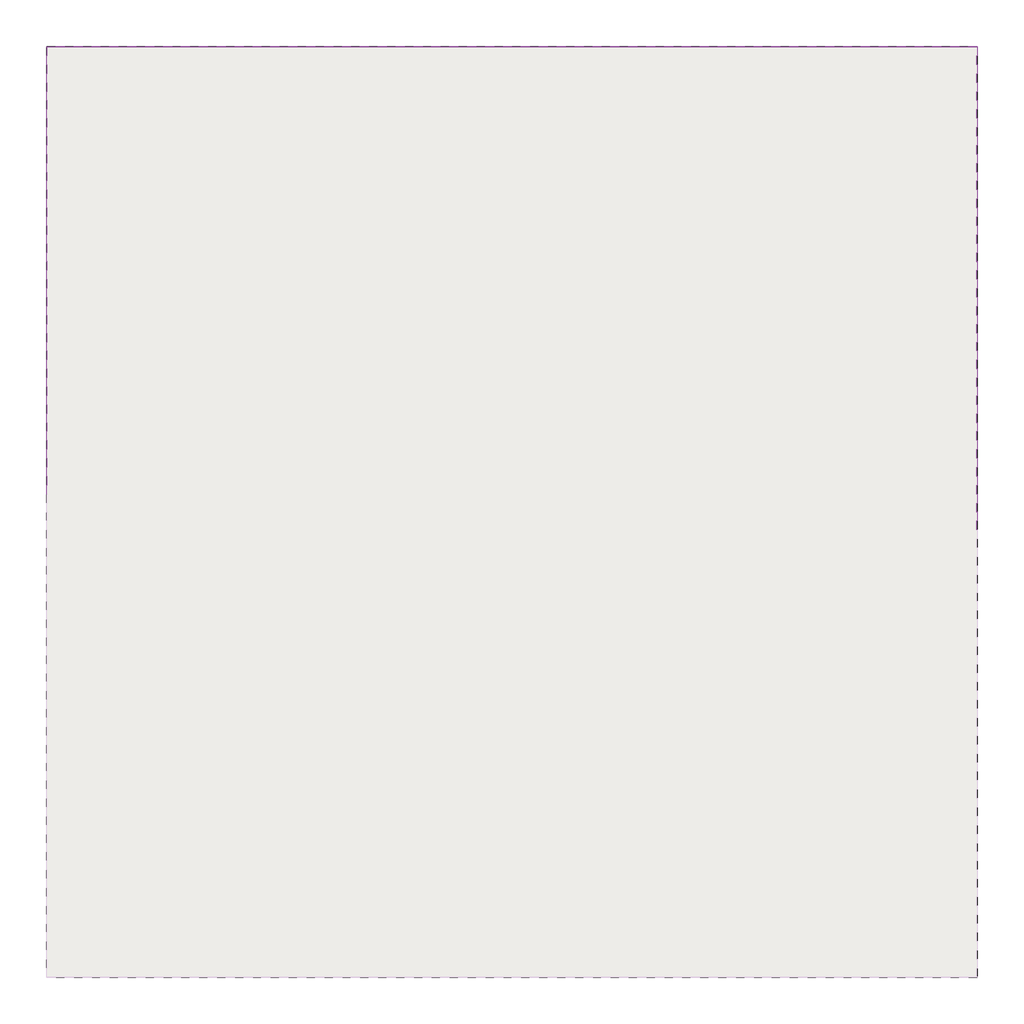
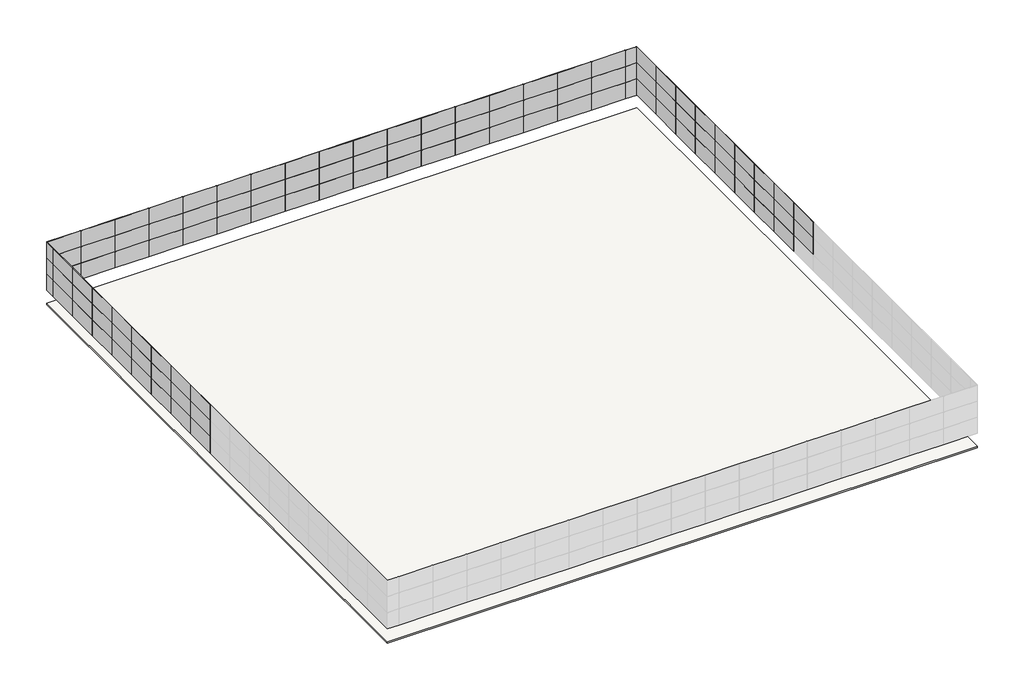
# One storey, part 2 of 2: 107 plates, 2 slabs.
"""IFC4 building model written with IfcOpenShell, lengths in millimetres."""

from ifc_helpers import new_model, si_unit, frame, origin, place, context, project, spatial, polyline, outline, extrude, transform, mapped, element, save
from components import plate_b491c4e8, plate_da1865bf

model = new_model("IFC4")

# Units and contexts
model_context = context("Model", 3, world=origin())
ifc_project = project(units=[si_unit("LENGTHUNIT", "METRE", prefix="MILLI")], contexts=[model_context])

# Site, building, storey
site = spatial("IfcSite", under=ifc_project)
building = spatial("IfcBuilding", under=site)
storey = spatial("IfcBuildingStorey", under=building, Name="标高 2", Elevation=4800.0)

# Plates
placement = place(None, origin())
plate_shape = plate_b491c4e8(model_context)
element("IfcPlate", 1, ObjectType="系统嵌板 : 玻璃", at=placement, inside=storey, context=model_context, shape_type="MappedRepresentation", body=[
    mapped(plate_shape, transform((30694.7947586, 23251.3686437, 6000.0), x_axis=(0.0, -1.0, 0.0), y_axis=(1.0, 0.0, 0.0), z_axis=(0.0, 0.0, 1.0))),
])
element("IfcPlate", 2, ObjectType="系统嵌板 : 玻璃", at=placement, inside=storey, context=model_context, shape_type="MappedRepresentation", body=[
    mapped(plate_shape, transform((30694.7947586, 20251.3686437, 6000.0), x_axis=(0.0, -1.0, 0.0), y_axis=(1.0, 0.0, 0.0), z_axis=(0.0, 0.0, 1.0))),
])
element("IfcPlate", 3, ObjectType="系统嵌板 : 玻璃", at=placement, inside=storey, context=model_context, shape_type="MappedRepresentation", body=[
    mapped(plate_shape, transform((30694.7947586, 17251.3686437, 6000.0), x_axis=(0.0, -1.0, 0.0), y_axis=(1.0, 0.0, 0.0), z_axis=(0.0, 0.0, 1.0))),
])
element("IfcPlate", 4, ObjectType="系统嵌板 : 玻璃", at=placement, inside=storey, context=model_context, shape_type="MappedRepresentation", body=[
    mapped(plate_shape, transform((30694.7947586, 14251.3686437, 6000.0), x_axis=(0.0, -1.0, 0.0), y_axis=(1.0, 0.0, 0.0), z_axis=(0.0, 0.0, 1.0))),
])
element("IfcPlate", 5, ObjectType="系统嵌板 : 玻璃", at=placement, inside=storey, context=model_context, shape_type="MappedRepresentation", body=[
    mapped(plate_shape, transform((30694.7947586, 11251.3686437, 6000.0), x_axis=(0.0, -1.0, 0.0), y_axis=(1.0, 0.0, 0.0), z_axis=(0.0, 0.0, 1.0))),
])
element("IfcPlate", 6, ObjectType="系统嵌板 : 玻璃", at=placement, inside=storey, context=model_context, shape_type="MappedRepresentation", body=[
    mapped(plate_shape, transform((30694.7947586, 8251.3686437, 6000.0), x_axis=(0.0, -1.0, 0.0), y_axis=(1.0, 0.0, 0.0), z_axis=(0.0, 0.0, 1.0))),
])
element("IfcPlate", 7, ObjectType="系统嵌板 : 玻璃", at=placement, inside=storey, context=model_context, shape_type="MappedRepresentation", body=[
    mapped(plate_shape, transform((30694.7947586, 5251.3686437, 6000.0), x_axis=(0.0, -1.0, 0.0), y_axis=(1.0, 0.0, 0.0), z_axis=(0.0, 0.0, 1.0))),
])
element("IfcPlate", 8, ObjectType="系统嵌板 : 玻璃", at=placement, inside=storey, context=model_context, shape_type="MappedRepresentation", body=[
    mapped(plate_shape, transform((30694.7947586, 2251.3686437, 6000.0), x_axis=(0.0, -1.0, 0.0), y_axis=(1.0, 0.0, 0.0), z_axis=(0.0, 0.0, 1.0))),
])
element("IfcPlate", 9, ObjectType="系统嵌板 : 玻璃", at=placement, inside=storey, context=model_context, shape_type="MappedRepresentation", body=[
    mapped(plate_shape, transform((30694.7947586, 23251.3686437, 7500.0), x_axis=(0.0, -1.0, 0.0), y_axis=(1.0, 0.0, 0.0), z_axis=(0.0, 0.0, 1.0))),
])
element("IfcPlate", 10, ObjectType="系统嵌板 : 玻璃", at=placement, inside=storey, context=model_context, shape_type="MappedRepresentation", body=[
    mapped(plate_shape, transform((30694.7947586, 20251.3686437, 7500.0), x_axis=(0.0, -1.0, 0.0), y_axis=(1.0, 0.0, 0.0), z_axis=(0.0, 0.0, 1.0))),
])
element("IfcPlate", 11, ObjectType="系统嵌板 : 玻璃", at=placement, inside=storey, context=model_context, shape_type="MappedRepresentation", body=[
    mapped(plate_shape, transform((30694.7947586, 17251.3686437, 7500.0), x_axis=(0.0, -1.0, 0.0), y_axis=(1.0, 0.0, 0.0), z_axis=(0.0, 0.0, 1.0))),
])
element("IfcPlate", 12, ObjectType="系统嵌板 : 玻璃", at=placement, inside=storey, context=model_context, shape_type="MappedRepresentation", body=[
    mapped(plate_shape, transform((30694.7947586, 14251.3686437, 7500.0), x_axis=(0.0, -1.0, 0.0), y_axis=(1.0, 0.0, 0.0), z_axis=(0.0, 0.0, 1.0))),
])
element("IfcPlate", 13, ObjectType="系统嵌板 : 玻璃", at=placement, inside=storey, context=model_context, shape_type="MappedRepresentation", body=[
    mapped(plate_shape, transform((30694.7947586, 11251.3686437, 7500.0), x_axis=(0.0, -1.0, 0.0), y_axis=(1.0, 0.0, 0.0), z_axis=(0.0, 0.0, 1.0))),
])
element("IfcPlate", 14, ObjectType="系统嵌板 : 玻璃", at=placement, inside=storey, context=model_context, shape_type="MappedRepresentation", body=[
    mapped(plate_shape, transform((30694.7947586, 8251.3686437, 7500.0), x_axis=(0.0, -1.0, 0.0), y_axis=(1.0, 0.0, 0.0), z_axis=(0.0, 0.0, 1.0))),
])
element("IfcPlate", 15, ObjectType="系统嵌板 : 玻璃", at=placement, inside=storey, context=model_context, shape_type="MappedRepresentation", body=[
    mapped(plate_shape, transform((30694.7947586, 5251.3686437, 7500.0), x_axis=(0.0, -1.0, 0.0), y_axis=(1.0, 0.0, 0.0), z_axis=(0.0, 0.0, 1.0))),
])
element("IfcPlate", 16, ObjectType="系统嵌板 : 玻璃", at=placement, inside=storey, context=model_context, shape_type="MappedRepresentation", body=[
    mapped(plate_shape, transform((30694.7947586, 2251.3686437, 7500.0), x_axis=(0.0, -1.0, 0.0), y_axis=(1.0, 0.0, 0.0), z_axis=(0.0, 0.0, 1.0))),
])
element("IfcPlate", 17, ObjectType="系统嵌板 : 玻璃", at=placement, inside=storey, context=model_context, shape_type="MappedRepresentation", body=[
    mapped(plate_shape, transform((30694.7947586, -748.6313563, 7500.0), x_axis=(0.0, -1.0, 0.0), y_axis=(1.0, 0.0, 0.0), z_axis=(0.0, 0.0, 1.0))),
])
element("IfcPlate", 18, ObjectType="系统嵌板 : 玻璃", at=placement, inside=storey, context=model_context, shape_type="MappedRepresentation", body=[
    mapped(plate_shape, transform((30694.7947586, 23251.3686437, 9000.0), x_axis=(0.0, -1.0, 0.0), y_axis=(1.0, 0.0, 0.0), z_axis=(0.0, 0.0, 1.0))),
])
element("IfcPlate", 19, ObjectType="系统嵌板 : 玻璃", at=placement, inside=storey, context=model_context, shape_type="MappedRepresentation", body=[
    mapped(plate_shape, transform((30694.7947586, 20251.3686437, 9000.0), x_axis=(0.0, -1.0, 0.0), y_axis=(1.0, 0.0, 0.0), z_axis=(0.0, 0.0, 1.0))),
])
element("IfcPlate", 20, ObjectType="系统嵌板 : 玻璃", at=placement, inside=storey, context=model_context, shape_type="MappedRepresentation", body=[
    mapped(plate_shape, transform((30694.7947586, 17251.3686437, 9000.0), x_axis=(0.0, -1.0, 0.0), y_axis=(1.0, 0.0, 0.0), z_axis=(0.0, 0.0, 1.0))),
])
element("IfcPlate", 21, ObjectType="系统嵌板 : 玻璃", at=placement, inside=storey, context=model_context, shape_type="MappedRepresentation", body=[
    mapped(plate_shape, transform((30694.7947586, 14251.3686437, 9000.0), x_axis=(0.0, -1.0, 0.0), y_axis=(1.0, 0.0, 0.0), z_axis=(0.0, 0.0, 1.0))),
])
element("IfcPlate", 22, ObjectType="系统嵌板 : 玻璃", at=placement, inside=storey, context=model_context, shape_type="MappedRepresentation", body=[
    mapped(plate_shape, transform((30694.7947586, 11251.3686437, 9000.0), x_axis=(0.0, -1.0, 0.0), y_axis=(1.0, 0.0, 0.0), z_axis=(0.0, 0.0, 1.0))),
])
element("IfcPlate", 23, ObjectType="系统嵌板 : 玻璃", at=placement, inside=storey, context=model_context, shape_type="MappedRepresentation", body=[
    mapped(plate_shape, transform((30694.7947586, 8251.3686437, 9000.0), x_axis=(0.0, -1.0, 0.0), y_axis=(1.0, 0.0, 0.0), z_axis=(0.0, 0.0, 1.0))),
])
element("IfcPlate", 24, ObjectType="系统嵌板 : 玻璃", at=placement, inside=storey, context=model_context, shape_type="MappedRepresentation", body=[
    mapped(plate_shape, transform((30694.7947586, 5251.3686437, 9000.0), x_axis=(0.0, -1.0, 0.0), y_axis=(1.0, 0.0, 0.0), z_axis=(0.0, 0.0, 1.0))),
])
element("IfcPlate", 25, ObjectType="系统嵌板 : 玻璃", at=placement, inside=storey, context=model_context, shape_type="MappedRepresentation", body=[
    mapped(plate_shape, transform((30694.7947586, 2251.3686437, 9000.0), x_axis=(0.0, -1.0, 0.0), y_axis=(1.0, 0.0, 0.0), z_axis=(0.0, 0.0, 1.0))),
])
element("IfcPlate", 26, ObjectType="系统嵌板 : 玻璃", at=placement, inside=storey, context=model_context, shape_type="MappedRepresentation", body=[
    mapped(plate_shape, transform((30694.7947586, -748.6313563, 9000.0), x_axis=(0.0, -1.0, 0.0), y_axis=(1.0, 0.0, 0.0), z_axis=(0.0, 0.0, 1.0))),
])
element("IfcPlate", 27, ObjectType="系统嵌板 : 玻璃", at=placement, inside=storey, context=model_context, shape_type="MappedRepresentation", body=[
    mapped(plate_shape, transform((-19805.2052414, 24751.3686437, 6000.0), x_axis=(1.0, 0.0, 0.0), y_axis=(0.0, 1.0, 0.0), z_axis=(0.0, 0.0, 1.0))),
])
element("IfcPlate", 28, ObjectType="系统嵌板 : 玻璃", at=placement, inside=storey, context=model_context, shape_type="MappedRepresentation", body=[
    mapped(plate_shape, transform((-16805.2052414, 24751.3686437, 6000.0), x_axis=(1.0, 0.0, 0.0), y_axis=(0.0, 1.0, 0.0), z_axis=(0.0, 0.0, 1.0))),
])
element("IfcPlate", 29, ObjectType="系统嵌板 : 玻璃", at=placement, inside=storey, context=model_context, shape_type="MappedRepresentation", body=[
    mapped(plate_shape, transform((-13805.2052414, 24751.3686437, 6000.0), x_axis=(1.0, 0.0, 0.0), y_axis=(0.0, 1.0, 0.0), z_axis=(0.0, 0.0, 1.0))),
])
element("IfcPlate", 30, ObjectType="系统嵌板 : 玻璃", at=placement, inside=storey, context=model_context, shape_type="MappedRepresentation", body=[
    mapped(plate_shape, transform((-10805.2052414, 24751.3686437, 6000.0), x_axis=(1.0, 0.0, 0.0), y_axis=(0.0, 1.0, 0.0), z_axis=(0.0, 0.0, 1.0))),
])
element("IfcPlate", 31, ObjectType="系统嵌板 : 玻璃", at=placement, inside=storey, context=model_context, shape_type="MappedRepresentation", body=[
    mapped(plate_shape, transform((-7805.2052414, 24751.3686437, 6000.0), x_axis=(1.0, 0.0, 0.0), y_axis=(0.0, 1.0, 0.0), z_axis=(0.0, 0.0, 1.0))),
])
element("IfcPlate", 32, ObjectType="系统嵌板 : 玻璃", at=placement, inside=storey, context=model_context, shape_type="MappedRepresentation", body=[
    mapped(plate_shape, transform((-4805.2052414, 24751.3686437, 6000.0), x_axis=(1.0, 0.0, 0.0), y_axis=(0.0, 1.0, 0.0), z_axis=(0.0, 0.0, 1.0))),
])
element("IfcPlate", 33, ObjectType="系统嵌板 : 玻璃", at=placement, inside=storey, context=model_context, shape_type="MappedRepresentation", body=[
    mapped(plate_shape, transform((-1805.2052414, 24751.3686437, 6000.0), x_axis=(1.0, 0.0, 0.0), y_axis=(0.0, 1.0, 0.0), z_axis=(0.0, 0.0, 1.0))),
])
element("IfcPlate", 34, ObjectType="系统嵌板 : 玻璃", at=placement, inside=storey, context=model_context, shape_type="MappedRepresentation", body=[
    mapped(plate_shape, transform((1194.7947586, 24751.3686437, 6000.0), x_axis=(1.0, 0.0, 0.0), y_axis=(0.0, 1.0, 0.0), z_axis=(0.0, 0.0, 1.0))),
])
element("IfcPlate", 35, ObjectType="系统嵌板 : 玻璃", at=placement, inside=storey, context=model_context, shape_type="MappedRepresentation", body=[
    mapped(plate_shape, transform((4194.7947586, 24751.3686437, 6000.0), x_axis=(1.0, 0.0, 0.0), y_axis=(0.0, 1.0, 0.0), z_axis=(0.0, 0.0, 1.0))),
])
element("IfcPlate", 36, ObjectType="系统嵌板 : 玻璃", at=placement, inside=storey, context=model_context, shape_type="MappedRepresentation", body=[
    mapped(plate_shape, transform((7194.7947586, 24751.3686437, 6000.0), x_axis=(1.0, 0.0, 0.0), y_axis=(0.0, 1.0, 0.0), z_axis=(0.0, 0.0, 1.0))),
])
element("IfcPlate", 37, ObjectType="系统嵌板 : 玻璃", at=placement, inside=storey, context=model_context, shape_type="MappedRepresentation", body=[
    mapped(plate_shape, transform((10194.7947586, 24751.3686437, 6000.0), x_axis=(1.0, 0.0, 0.0), y_axis=(0.0, 1.0, 0.0), z_axis=(0.0, 0.0, 1.0))),
])
element("IfcPlate", 38, ObjectType="系统嵌板 : 玻璃", at=placement, inside=storey, context=model_context, shape_type="MappedRepresentation", body=[
    mapped(plate_shape, transform((13194.7947586, 24751.3686437, 6000.0), x_axis=(1.0, 0.0, 0.0), y_axis=(0.0, 1.0, 0.0), z_axis=(0.0, 0.0, 1.0))),
])
element("IfcPlate", 39, ObjectType="系统嵌板 : 玻璃", at=placement, inside=storey, context=model_context, shape_type="MappedRepresentation", body=[
    mapped(plate_shape, transform((16194.7947586, 24751.3686437, 6000.0), x_axis=(1.0, 0.0, 0.0), y_axis=(0.0, 1.0, 0.0), z_axis=(0.0, 0.0, 1.0))),
])
element("IfcPlate", 40, ObjectType="系统嵌板 : 玻璃", at=placement, inside=storey, context=model_context, shape_type="MappedRepresentation", body=[
    mapped(plate_shape, transform((19194.7947586, 24751.3686437, 6000.0), x_axis=(1.0, 0.0, 0.0), y_axis=(0.0, 1.0, 0.0), z_axis=(0.0, 0.0, 1.0))),
])
element("IfcPlate", 41, ObjectType="系统嵌板 : 玻璃", at=placement, inside=storey, context=model_context, shape_type="MappedRepresentation", body=[
    mapped(plate_shape, transform((22194.7947586, 24751.3686437, 6000.0), x_axis=(1.0, 0.0, 0.0), y_axis=(0.0, 1.0, 0.0), z_axis=(0.0, 0.0, 1.0))),
])
element("IfcPlate", 42, ObjectType="系统嵌板 : 玻璃", at=placement, inside=storey, context=model_context, shape_type="MappedRepresentation", body=[
    mapped(plate_shape, transform((25194.7947586, 24751.3686437, 6000.0), x_axis=(1.0, 0.0, 0.0), y_axis=(0.0, 1.0, 0.0), z_axis=(0.0, 0.0, 1.0))),
])
element("IfcPlate", 43, ObjectType="系统嵌板 : 玻璃", at=placement, inside=storey, context=model_context, shape_type="MappedRepresentation", body=[
    mapped(plate_shape, transform((28194.7947586, 24751.3686437, 6000.0), x_axis=(1.0, 0.0, 0.0), y_axis=(0.0, 1.0, 0.0), z_axis=(0.0, 0.0, 1.0))),
])
element("IfcPlate", 44, ObjectType="系统嵌板 : 玻璃", at=placement, inside=storey, context=model_context, shape_type="MappedRepresentation", body=[
    mapped(plate_shape, transform((-19805.2052414, 24751.3686437, 7500.0), x_axis=(1.0, 0.0, 0.0), y_axis=(0.0, 1.0, 0.0), z_axis=(0.0, 0.0, 1.0))),
])
element("IfcPlate", 45, ObjectType="系统嵌板 : 玻璃", at=placement, inside=storey, context=model_context, shape_type="MappedRepresentation", body=[
    mapped(plate_shape, transform((-16805.2052414, 24751.3686437, 7500.0), x_axis=(1.0, 0.0, 0.0), y_axis=(0.0, 1.0, 0.0), z_axis=(0.0, 0.0, 1.0))),
])
element("IfcPlate", 46, ObjectType="系统嵌板 : 玻璃", at=placement, inside=storey, context=model_context, shape_type="MappedRepresentation", body=[
    mapped(plate_shape, transform((-13805.2052414, 24751.3686437, 7500.0), x_axis=(1.0, 0.0, 0.0), y_axis=(0.0, 1.0, 0.0), z_axis=(0.0, 0.0, 1.0))),
])
element("IfcPlate", 47, ObjectType="系统嵌板 : 玻璃", at=placement, inside=storey, context=model_context, shape_type="MappedRepresentation", body=[
    mapped(plate_shape, transform((-10805.2052414, 24751.3686437, 7500.0), x_axis=(1.0, 0.0, 0.0), y_axis=(0.0, 1.0, 0.0), z_axis=(0.0, 0.0, 1.0))),
])
element("IfcPlate", 48, ObjectType="系统嵌板 : 玻璃", at=placement, inside=storey, context=model_context, shape_type="MappedRepresentation", body=[
    mapped(plate_shape, transform((-7805.2052414, 24751.3686437, 7500.0), x_axis=(1.0, 0.0, 0.0), y_axis=(0.0, 1.0, 0.0), z_axis=(0.0, 0.0, 1.0))),
])
element("IfcPlate", 49, ObjectType="系统嵌板 : 玻璃", at=placement, inside=storey, context=model_context, shape_type="MappedRepresentation", body=[
    mapped(plate_shape, transform((-4805.2052414, 24751.3686437, 7500.0), x_axis=(1.0, 0.0, 0.0), y_axis=(0.0, 1.0, 0.0), z_axis=(0.0, 0.0, 1.0))),
])
element("IfcPlate", 50, ObjectType="系统嵌板 : 玻璃", at=placement, inside=storey, context=model_context, shape_type="MappedRepresentation", body=[
    mapped(plate_shape, transform((-1805.2052414, 24751.3686437, 7500.0), x_axis=(1.0, 0.0, 0.0), y_axis=(0.0, 1.0, 0.0), z_axis=(0.0, 0.0, 1.0))),
])
element("IfcPlate", 51, ObjectType="系统嵌板 : 玻璃", at=placement, inside=storey, context=model_context, shape_type="MappedRepresentation", body=[
    mapped(plate_shape, transform((1194.7947586, 24751.3686437, 7500.0), x_axis=(1.0, 0.0, 0.0), y_axis=(0.0, 1.0, 0.0), z_axis=(0.0, 0.0, 1.0))),
])
element("IfcPlate", 52, ObjectType="系统嵌板 : 玻璃", at=placement, inside=storey, context=model_context, shape_type="MappedRepresentation", body=[
    mapped(plate_shape, transform((4194.7947586, 24751.3686437, 7500.0), x_axis=(1.0, 0.0, 0.0), y_axis=(0.0, 1.0, 0.0), z_axis=(0.0, 0.0, 1.0))),
])
element("IfcPlate", 53, ObjectType="系统嵌板 : 玻璃", at=placement, inside=storey, context=model_context, shape_type="MappedRepresentation", body=[
    mapped(plate_shape, transform((7194.7947586, 24751.3686437, 7500.0), x_axis=(1.0, 0.0, 0.0), y_axis=(0.0, 1.0, 0.0), z_axis=(0.0, 0.0, 1.0))),
])
element("IfcPlate", 54, ObjectType="系统嵌板 : 玻璃", at=placement, inside=storey, context=model_context, shape_type="MappedRepresentation", body=[
    mapped(plate_shape, transform((10194.7947586, 24751.3686437, 7500.0), x_axis=(1.0, 0.0, 0.0), y_axis=(0.0, 1.0, 0.0), z_axis=(0.0, 0.0, 1.0))),
])
element("IfcPlate", 55, ObjectType="系统嵌板 : 玻璃", at=placement, inside=storey, context=model_context, shape_type="MappedRepresentation", body=[
    mapped(plate_shape, transform((13194.7947586, 24751.3686437, 7500.0), x_axis=(1.0, 0.0, 0.0), y_axis=(0.0, 1.0, 0.0), z_axis=(0.0, 0.0, 1.0))),
])
element("IfcPlate", 56, ObjectType="系统嵌板 : 玻璃", at=placement, inside=storey, context=model_context, shape_type="MappedRepresentation", body=[
    mapped(plate_shape, transform((16194.7947586, 24751.3686437, 7500.0), x_axis=(1.0, 0.0, 0.0), y_axis=(0.0, 1.0, 0.0), z_axis=(0.0, 0.0, 1.0))),
])
element("IfcPlate", 57, ObjectType="系统嵌板 : 玻璃", at=placement, inside=storey, context=model_context, shape_type="MappedRepresentation", body=[
    mapped(plate_shape, transform((19194.7947586, 24751.3686437, 7500.0), x_axis=(1.0, 0.0, 0.0), y_axis=(0.0, 1.0, 0.0), z_axis=(0.0, 0.0, 1.0))),
])
element("IfcPlate", 58, ObjectType="系统嵌板 : 玻璃", at=placement, inside=storey, context=model_context, shape_type="MappedRepresentation", body=[
    mapped(plate_shape, transform((22194.7947586, 24751.3686437, 7500.0), x_axis=(1.0, 0.0, 0.0), y_axis=(0.0, 1.0, 0.0), z_axis=(0.0, 0.0, 1.0))),
])
element("IfcPlate", 59, ObjectType="系统嵌板 : 玻璃", at=placement, inside=storey, context=model_context, shape_type="MappedRepresentation", body=[
    mapped(plate_shape, transform((25194.7947586, 24751.3686437, 7500.0), x_axis=(1.0, 0.0, 0.0), y_axis=(0.0, 1.0, 0.0), z_axis=(0.0, 0.0, 1.0))),
])
element("IfcPlate", 60, ObjectType="系统嵌板 : 玻璃", at=placement, inside=storey, context=model_context, shape_type="MappedRepresentation", body=[
    mapped(plate_shape, transform((28194.7947586, 24751.3686437, 7500.0), x_axis=(1.0, 0.0, 0.0), y_axis=(0.0, 1.0, 0.0), z_axis=(0.0, 0.0, 1.0))),
])
element("IfcPlate", 61, ObjectType="系统嵌板 : 玻璃", at=placement, inside=storey, context=model_context, shape_type="MappedRepresentation", body=[
    mapped(plate_shape, transform((-19805.2052414, 24751.3686437, 9000.0), x_axis=(1.0, 0.0, 0.0), y_axis=(0.0, 1.0, 0.0), z_axis=(0.0, 0.0, 1.0))),
])
element("IfcPlate", 62, ObjectType="系统嵌板 : 玻璃", at=placement, inside=storey, context=model_context, shape_type="MappedRepresentation", body=[
    mapped(plate_shape, transform((-16805.2052414, 24751.3686437, 9000.0), x_axis=(1.0, 0.0, 0.0), y_axis=(0.0, 1.0, 0.0), z_axis=(0.0, 0.0, 1.0))),
])
element("IfcPlate", 63, ObjectType="系统嵌板 : 玻璃", at=placement, inside=storey, context=model_context, shape_type="MappedRepresentation", body=[
    mapped(plate_shape, transform((-13805.2052414, 24751.3686437, 9000.0), x_axis=(1.0, 0.0, 0.0), y_axis=(0.0, 1.0, 0.0), z_axis=(0.0, 0.0, 1.0))),
])
element("IfcPlate", 64, ObjectType="系统嵌板 : 玻璃", at=placement, inside=storey, context=model_context, shape_type="MappedRepresentation", body=[
    mapped(plate_shape, transform((-10805.2052414, 24751.3686437, 9000.0), x_axis=(1.0, 0.0, 0.0), y_axis=(0.0, 1.0, 0.0), z_axis=(0.0, 0.0, 1.0))),
])
element("IfcPlate", 65, ObjectType="系统嵌板 : 玻璃", at=placement, inside=storey, context=model_context, shape_type="MappedRepresentation", body=[
    mapped(plate_shape, transform((-7805.2052414, 24751.3686437, 9000.0), x_axis=(1.0, 0.0, 0.0), y_axis=(0.0, 1.0, 0.0), z_axis=(0.0, 0.0, 1.0))),
])
element("IfcPlate", 66, ObjectType="系统嵌板 : 玻璃", at=placement, inside=storey, context=model_context, shape_type="MappedRepresentation", body=[
    mapped(plate_shape, transform((-4805.2052414, 24751.3686437, 9000.0), x_axis=(1.0, 0.0, 0.0), y_axis=(0.0, 1.0, 0.0), z_axis=(0.0, 0.0, 1.0))),
])
element("IfcPlate", 67, ObjectType="系统嵌板 : 玻璃", at=placement, inside=storey, context=model_context, shape_type="MappedRepresentation", body=[
    mapped(plate_shape, transform((-1805.2052414, 24751.3686437, 9000.0), x_axis=(1.0, 0.0, 0.0), y_axis=(0.0, 1.0, 0.0), z_axis=(0.0, 0.0, 1.0))),
])
element("IfcPlate", 68, ObjectType="系统嵌板 : 玻璃", at=placement, inside=storey, context=model_context, shape_type="MappedRepresentation", body=[
    mapped(plate_shape, transform((1194.7947586, 24751.3686437, 9000.0), x_axis=(1.0, 0.0, 0.0), y_axis=(0.0, 1.0, 0.0), z_axis=(0.0, 0.0, 1.0))),
])
element("IfcPlate", 69, ObjectType="系统嵌板 : 玻璃", at=placement, inside=storey, context=model_context, shape_type="MappedRepresentation", body=[
    mapped(plate_shape, transform((4194.7947586, 24751.3686437, 9000.0), x_axis=(1.0, 0.0, 0.0), y_axis=(0.0, 1.0, 0.0), z_axis=(0.0, 0.0, 1.0))),
])
element("IfcPlate", 70, ObjectType="系统嵌板 : 玻璃", at=placement, inside=storey, context=model_context, shape_type="MappedRepresentation", body=[
    mapped(plate_shape, transform((7194.7947586, 24751.3686437, 9000.0), x_axis=(1.0, 0.0, 0.0), y_axis=(0.0, 1.0, 0.0), z_axis=(0.0, 0.0, 1.0))),
])
element("IfcPlate", 71, ObjectType="系统嵌板 : 玻璃", at=placement, inside=storey, context=model_context, shape_type="MappedRepresentation", body=[
    mapped(plate_shape, transform((10194.7947586, 24751.3686437, 9000.0), x_axis=(1.0, 0.0, 0.0), y_axis=(0.0, 1.0, 0.0), z_axis=(0.0, 0.0, 1.0))),
])
element("IfcPlate", 72, ObjectType="系统嵌板 : 玻璃", at=placement, inside=storey, context=model_context, shape_type="MappedRepresentation", body=[
    mapped(plate_shape, transform((13194.7947586, 24751.3686437, 9000.0), x_axis=(1.0, 0.0, 0.0), y_axis=(0.0, 1.0, 0.0), z_axis=(0.0, 0.0, 1.0))),
])
element("IfcPlate", 73, ObjectType="系统嵌板 : 玻璃", at=placement, inside=storey, context=model_context, shape_type="MappedRepresentation", body=[
    mapped(plate_shape, transform((16194.7947586, 24751.3686437, 9000.0), x_axis=(1.0, 0.0, 0.0), y_axis=(0.0, 1.0, 0.0), z_axis=(0.0, 0.0, 1.0))),
])
element("IfcPlate", 74, ObjectType="系统嵌板 : 玻璃", at=placement, inside=storey, context=model_context, shape_type="MappedRepresentation", body=[
    mapped(plate_shape, transform((19194.7947586, 24751.3686437, 9000.0), x_axis=(1.0, 0.0, 0.0), y_axis=(0.0, 1.0, 0.0), z_axis=(0.0, 0.0, 1.0))),
])
element("IfcPlate", 75, ObjectType="系统嵌板 : 玻璃", at=placement, inside=storey, context=model_context, shape_type="MappedRepresentation", body=[
    mapped(plate_shape, transform((22194.7947586, 24751.3686437, 9000.0), x_axis=(1.0, 0.0, 0.0), y_axis=(0.0, 1.0, 0.0), z_axis=(0.0, 0.0, 1.0))),
])
element("IfcPlate", 76, ObjectType="系统嵌板 : 玻璃", at=placement, inside=storey, context=model_context, shape_type="MappedRepresentation", body=[
    mapped(plate_shape, transform((25194.7947586, 24751.3686437, 9000.0), x_axis=(1.0, 0.0, 0.0), y_axis=(0.0, 1.0, 0.0), z_axis=(0.0, 0.0, 1.0))),
])
element("IfcPlate", 77, ObjectType="系统嵌板 : 玻璃", at=placement, inside=storey, context=model_context, shape_type="MappedRepresentation", body=[
    mapped(plate_shape, transform((28194.7947586, 24751.3686437, 9000.0), x_axis=(1.0, 0.0, 0.0), y_axis=(0.0, 1.0, 0.0), z_axis=(0.0, 0.0, 1.0))),
])
element("IfcPlate", 78, ObjectType="系统嵌板 : 玻璃", at=placement, inside=storey, context=model_context, shape_type="MappedRepresentation", body=[
    mapped(plate_shape, transform((-21305.2052414, 1251.3686437, 6000.0), x_axis=(0.0, 1.0, 0.0), y_axis=(-1.0, 0.0, 0.0), z_axis=(0.0, 0.0, 1.0))),
])
element("IfcPlate", 79, ObjectType="系统嵌板 : 玻璃", at=placement, inside=storey, context=model_context, shape_type="MappedRepresentation", body=[
    mapped(plate_shape, transform((-21305.2052414, 4251.3686437, 6000.0), x_axis=(0.0, 1.0, 0.0), y_axis=(-1.0, 0.0, 0.0), z_axis=(0.0, 0.0, 1.0))),
])
element("IfcPlate", 80, ObjectType="系统嵌板 : 玻璃", at=placement, inside=storey, context=model_context, shape_type="MappedRepresentation", body=[
    mapped(plate_shape, transform((-21305.2052414, 7251.3686437, 6000.0), x_axis=(0.0, 1.0, 0.0), y_axis=(-1.0, 0.0, 0.0), z_axis=(0.0, 0.0, 1.0))),
])
element("IfcPlate", 81, ObjectType="系统嵌板 : 玻璃", at=placement, inside=storey, context=model_context, shape_type="MappedRepresentation", body=[
    mapped(plate_shape, transform((-21305.2052414, 10251.3686437, 6000.0), x_axis=(0.0, 1.0, 0.0), y_axis=(-1.0, 0.0, 0.0), z_axis=(0.0, 0.0, 1.0))),
])
element("IfcPlate", 82, ObjectType="系统嵌板 : 玻璃", at=placement, inside=storey, context=model_context, shape_type="MappedRepresentation", body=[
    mapped(plate_shape, transform((-21305.2052414, 13251.3686437, 6000.0), x_axis=(0.0, 1.0, 0.0), y_axis=(-1.0, 0.0, 0.0), z_axis=(0.0, 0.0, 1.0))),
])
element("IfcPlate", 83, ObjectType="系统嵌板 : 玻璃", at=placement, inside=storey, context=model_context, shape_type="MappedRepresentation", body=[
    mapped(plate_shape, transform((-21305.2052414, 16251.3686437, 6000.0), x_axis=(0.0, 1.0, 0.0), y_axis=(-1.0, 0.0, 0.0), z_axis=(0.0, 0.0, 1.0))),
])
element("IfcPlate", 84, ObjectType="系统嵌板 : 玻璃", at=placement, inside=storey, context=model_context, shape_type="MappedRepresentation", body=[
    mapped(plate_shape, transform((-21305.2052414, 19251.3686437, 6000.0), x_axis=(0.0, 1.0, 0.0), y_axis=(-1.0, 0.0, 0.0), z_axis=(0.0, 0.0, 1.0))),
])
element("IfcPlate", 85, ObjectType="系统嵌板 : 玻璃", at=placement, inside=storey, context=model_context, shape_type="MappedRepresentation", body=[
    mapped(plate_shape, transform((-21305.2052414, 22251.3686437, 6000.0), x_axis=(0.0, 1.0, 0.0), y_axis=(-1.0, 0.0, 0.0), z_axis=(0.0, 0.0, 1.0))),
])
element("IfcPlate", 86, ObjectType="系统嵌板 : 玻璃", at=placement, inside=storey, context=model_context, shape_type="MappedRepresentation", body=[
    mapped(plate_shape, transform((-21305.2052414, 1251.3686437, 7500.0), x_axis=(0.0, 1.0, 0.0), y_axis=(-1.0, 0.0, 0.0), z_axis=(0.0, 0.0, 1.0))),
])
element("IfcPlate", 87, ObjectType="系统嵌板 : 玻璃", at=placement, inside=storey, context=model_context, shape_type="MappedRepresentation", body=[
    mapped(plate_shape, transform((-21305.2052414, 4251.3686437, 7500.0), x_axis=(0.0, 1.0, 0.0), y_axis=(-1.0, 0.0, 0.0), z_axis=(0.0, 0.0, 1.0))),
])
element("IfcPlate", 88, ObjectType="系统嵌板 : 玻璃", at=placement, inside=storey, context=model_context, shape_type="MappedRepresentation", body=[
    mapped(plate_shape, transform((-21305.2052414, 7251.3686437, 7500.0), x_axis=(0.0, 1.0, 0.0), y_axis=(-1.0, 0.0, 0.0), z_axis=(0.0, 0.0, 1.0))),
])
element("IfcPlate", 89, ObjectType="系统嵌板 : 玻璃", at=placement, inside=storey, context=model_context, shape_type="MappedRepresentation", body=[
    mapped(plate_shape, transform((-21305.2052414, 10251.3686437, 7500.0), x_axis=(0.0, 1.0, 0.0), y_axis=(-1.0, 0.0, 0.0), z_axis=(0.0, 0.0, 1.0))),
])
element("IfcPlate", 90, ObjectType="系统嵌板 : 玻璃", at=placement, inside=storey, context=model_context, shape_type="MappedRepresentation", body=[
    mapped(plate_shape, transform((-21305.2052414, 13251.3686437, 7500.0), x_axis=(0.0, 1.0, 0.0), y_axis=(-1.0, 0.0, 0.0), z_axis=(0.0, 0.0, 1.0))),
])
element("IfcPlate", 91, ObjectType="系统嵌板 : 玻璃", at=placement, inside=storey, context=model_context, shape_type="MappedRepresentation", body=[
    mapped(plate_shape, transform((-21305.2052414, 16251.3686437, 7500.0), x_axis=(0.0, 1.0, 0.0), y_axis=(-1.0, 0.0, 0.0), z_axis=(0.0, 0.0, 1.0))),
])
element("IfcPlate", 92, ObjectType="系统嵌板 : 玻璃", at=placement, inside=storey, context=model_context, shape_type="MappedRepresentation", body=[
    mapped(plate_shape, transform((-21305.2052414, 19251.3686437, 7500.0), x_axis=(0.0, 1.0, 0.0), y_axis=(-1.0, 0.0, 0.0), z_axis=(0.0, 0.0, 1.0))),
])
element("IfcPlate", 93, ObjectType="系统嵌板 : 玻璃", at=placement, inside=storey, context=model_context, shape_type="MappedRepresentation", body=[
    mapped(plate_shape, transform((-21305.2052414, 22251.3686437, 7500.0), x_axis=(0.0, 1.0, 0.0), y_axis=(-1.0, 0.0, 0.0), z_axis=(0.0, 0.0, 1.0))),
])
element("IfcPlate", 94, ObjectType="系统嵌板 : 玻璃", at=placement, inside=storey, context=model_context, shape_type="MappedRepresentation", body=[
    mapped(plate_shape, transform((-21305.2052414, 1251.3686437, 9000.0), x_axis=(0.0, 1.0, 0.0), y_axis=(-1.0, 0.0, 0.0), z_axis=(0.0, 0.0, 1.0))),
])
element("IfcPlate", 95, ObjectType="系统嵌板 : 玻璃", at=placement, inside=storey, context=model_context, shape_type="MappedRepresentation", body=[
    mapped(plate_shape, transform((-21305.2052414, 4251.3686437, 9000.0), x_axis=(0.0, 1.0, 0.0), y_axis=(-1.0, 0.0, 0.0), z_axis=(0.0, 0.0, 1.0))),
])
element("IfcPlate", 96, ObjectType="系统嵌板 : 玻璃", at=placement, inside=storey, context=model_context, shape_type="MappedRepresentation", body=[
    mapped(plate_shape, transform((-21305.2052414, 7251.3686437, 9000.0), x_axis=(0.0, 1.0, 0.0), y_axis=(-1.0, 0.0, 0.0), z_axis=(0.0, 0.0, 1.0))),
])
element("IfcPlate", 97, ObjectType="系统嵌板 : 玻璃", at=placement, inside=storey, context=model_context, shape_type="MappedRepresentation", body=[
    mapped(plate_shape, transform((-21305.2052414, 10251.3686437, 9000.0), x_axis=(0.0, 1.0, 0.0), y_axis=(-1.0, 0.0, 0.0), z_axis=(0.0, 0.0, 1.0))),
])
element("IfcPlate", 98, ObjectType="系统嵌板 : 玻璃", at=placement, inside=storey, context=model_context, shape_type="MappedRepresentation", body=[
    mapped(plate_shape, transform((-21305.2052414, 13251.3686437, 9000.0), x_axis=(0.0, 1.0, 0.0), y_axis=(-1.0, 0.0, 0.0), z_axis=(0.0, 0.0, 1.0))),
])
element("IfcPlate", 99, ObjectType="系统嵌板 : 玻璃", at=placement, inside=storey, context=model_context, shape_type="MappedRepresentation", body=[
    mapped(plate_shape, transform((-21305.2052414, 16251.3686437, 9000.0), x_axis=(0.0, 1.0, 0.0), y_axis=(-1.0, 0.0, 0.0), z_axis=(0.0, 0.0, 1.0))),
])
element("IfcPlate", 100, ObjectType="系统嵌板 : 玻璃", at=placement, inside=storey, context=model_context, shape_type="MappedRepresentation", body=[
    mapped(plate_shape, transform((-21305.2052414, 19251.3686437, 9000.0), x_axis=(0.0, 1.0, 0.0), y_axis=(-1.0, 0.0, 0.0), z_axis=(0.0, 0.0, 1.0))),
])
element("IfcPlate", 101, ObjectType="系统嵌板 : 玻璃", at=placement, inside=storey, context=model_context, shape_type="MappedRepresentation", body=[
    mapped(plate_shape, transform((-21305.2052414, 22251.3686437, 9000.0), x_axis=(0.0, 1.0, 0.0), y_axis=(-1.0, 0.0, 0.0), z_axis=(0.0, 0.0, 1.0))),
])
plate_2_shape = plate_da1865bf(model_context)
element("IfcPlate", 102, ObjectType="系统嵌板 : 玻璃", at=placement, inside=storey, context=model_context, shape_type="MappedRepresentation", body=[
    mapped(plate_2_shape, transform((30194.7947586, 24751.3686437, 6000.0), x_axis=(1.0, 0.0, 0.0), y_axis=(0.0, 1.0, 0.0), z_axis=(0.0, 0.0, 1.0))),
])
element("IfcPlate", 103, ObjectType="系统嵌板 : 玻璃", at=placement, inside=storey, context=model_context, shape_type="MappedRepresentation", body=[
    mapped(plate_2_shape, transform((30194.7947586, 24751.3686437, 7500.0), x_axis=(1.0, 0.0, 0.0), y_axis=(0.0, 1.0, 0.0), z_axis=(0.0, 0.0, 1.0))),
])
element("IfcPlate", 104, ObjectType="系统嵌板 : 玻璃", at=placement, inside=storey, context=model_context, shape_type="MappedRepresentation", body=[
    mapped(plate_2_shape, transform((30194.7947586, 24751.3686437, 9000.0), x_axis=(1.0, 0.0, 0.0), y_axis=(0.0, 1.0, 0.0), z_axis=(0.0, 0.0, 1.0))),
])
element("IfcPlate", 105, ObjectType="系统嵌板 : 玻璃", at=placement, inside=storey, context=model_context, shape_type="MappedRepresentation", body=[
    mapped(plate_2_shape, transform((-21305.2052414, 24251.3686437, 6000.0), x_axis=(0.0, 1.0, 0.0), y_axis=(-1.0, 0.0, 0.0), z_axis=(0.0, 0.0, 1.0))),
])
element("IfcPlate", 106, ObjectType="系统嵌板 : 玻璃", at=placement, inside=storey, context=model_context, shape_type="MappedRepresentation", body=[
    mapped(plate_2_shape, transform((-21305.2052414, 24251.3686437, 7500.0), x_axis=(0.0, 1.0, 0.0), y_axis=(-1.0, 0.0, 0.0), z_axis=(0.0, 0.0, 1.0))),
])
element("IfcPlate", 107, ObjectType="系统嵌板 : 玻璃", at=placement, inside=storey, context=model_context, shape_type="MappedRepresentation", body=[
    mapped(plate_2_shape, transform((-21305.2052414, 24251.3686437, 9000.0), x_axis=(0.0, 1.0, 0.0), y_axis=(-1.0, 0.0, 0.0), z_axis=(0.0, 0.0, 1.0))),
])

# Slabs
element("IfcSlab", 108, ObjectType="常规 - 150mm", at=placement, inside=storey, context=model_context, shape_type="SweptSolid", body=[
    extrude(outline(polyline([(30694.7947586, -27248.6313563), (-21305.2052414, -27248.6313563), (-21305.2052414, 24751.3686437), (30694.7947586, 24751.3686437), (30694.7947586, -27248.6313563)])), frame((0.0, 0.0, 4650.0), z_axis=(0.0, 0.0, 1.0), x_axis=(1.0, 0.0, 0.0)), (0.0, 0.0, 1.0), 150.0),
])
element("IfcSlab", 109, ObjectType="常规 - 150mm", at=placement, inside=storey, context=model_context, shape_type="SweptSolid", body=[
    extrude(outline(polyline([(30694.7947586, -27248.6313563), (-21305.2052414, -27248.6313563), (-21305.2052414, 24751.3686437), (30694.7947586, 24751.3686437), (30694.7947586, -27248.6313563)])), frame((0.0, 0.0, 4650.0), z_axis=(0.0, 0.0, 1.0), x_axis=(1.0, 0.0, 0.0)), (0.0, 0.0, 1.0), 150.0),
])

save(model, "model.ifc")
